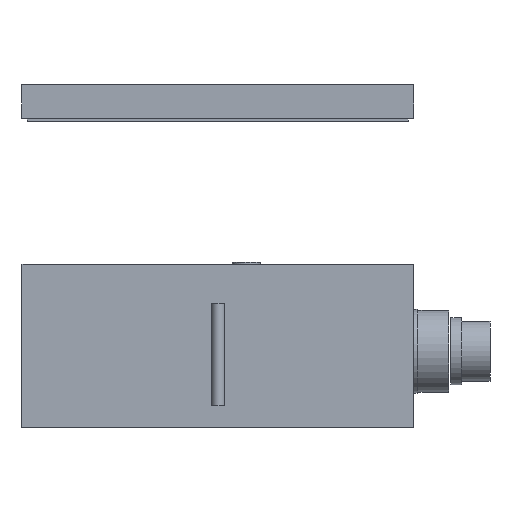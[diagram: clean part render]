
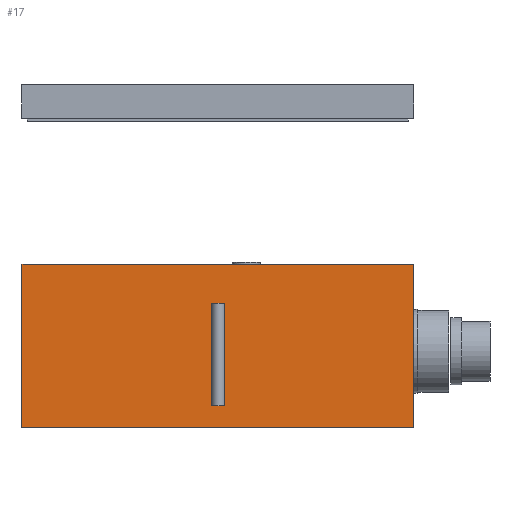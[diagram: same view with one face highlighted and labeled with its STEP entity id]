
A CAD part, left-side view. The second image highlights one B-rep face of the part: STEP entity #17.
In plain terms, the highlighted planar face has unit normal (-1, 0, 0).
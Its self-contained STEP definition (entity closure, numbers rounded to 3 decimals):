
#17 = ADVANCED_FACE('',(#18),#52,.F.);
#18 = FACE_BOUND('',#19,.F.);
#19 = EDGE_LOOP('',(#20,#30,#38,#46));
#20 = ORIENTED_EDGE('',*,*,#21,.F.);
#21 = EDGE_CURVE('',#22,#24,#26,.T.);
#22 = VERTEX_POINT('',#23);
#23 = CARTESIAN_POINT('',(-60.,-90.,0.));
#24 = VERTEX_POINT('',#25);
#25 = CARTESIAN_POINT('',(-60.,-90.,75.));
#26 = LINE('',#27,#28);
#27 = CARTESIAN_POINT('',(-60.,-90.,0.));
#28 = VECTOR('',#29,1.);
#29 = DIRECTION('',(0.,0.,1.));
#30 = ORIENTED_EDGE('',*,*,#31,.T.);
#31 = EDGE_CURVE('',#22,#32,#34,.T.);
#32 = VERTEX_POINT('',#33);
#33 = CARTESIAN_POINT('',(-60.,90.,0.));
#34 = LINE('',#35,#36);
#35 = CARTESIAN_POINT('',(-60.,-90.,0.));
#36 = VECTOR('',#37,1.);
#37 = DIRECTION('',(0.,1.,0.));
#38 = ORIENTED_EDGE('',*,*,#39,.T.);
#39 = EDGE_CURVE('',#32,#40,#42,.T.);
#40 = VERTEX_POINT('',#41);
#41 = CARTESIAN_POINT('',(-60.,90.,75.));
#42 = LINE('',#43,#44);
#43 = CARTESIAN_POINT('',(-60.,90.,0.));
#44 = VECTOR('',#45,1.);
#45 = DIRECTION('',(0.,0.,1.));
#46 = ORIENTED_EDGE('',*,*,#47,.F.);
#47 = EDGE_CURVE('',#24,#40,#48,.T.);
#48 = LINE('',#49,#50);
#49 = CARTESIAN_POINT('',(-60.,-90.,75.));
#50 = VECTOR('',#51,1.);
#51 = DIRECTION('',(0.,1.,0.));
#52 = PLANE('',#53);
#53 = AXIS2_PLACEMENT_3D('',#54,#55,#56);
#54 = CARTESIAN_POINT('',(-60.,-90.,0.));
#55 = DIRECTION('',(1.,0.,0.));
#56 = DIRECTION('',(0.,0.,1.));
